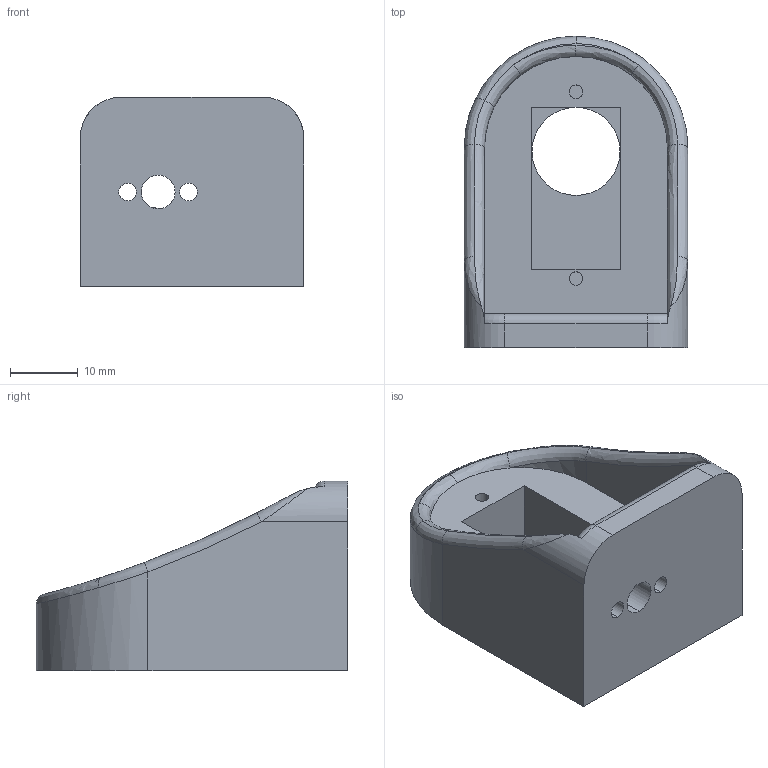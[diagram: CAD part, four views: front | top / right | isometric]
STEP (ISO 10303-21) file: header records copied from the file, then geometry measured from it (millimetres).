
FILE_DESCRIPTION (( 'STEP AP203' ), '1' );
FILE_NAME ('Arm 03.STEP', '2021-09-16T07:10:01', ( '' ), ( '' ), 'SwSTEP 2.0', 'SolidWorks 2019', '' );
FILE_SCHEMA (( 'CONFIG_CONTROL_DESIGN' ));
Length unit declared in the file: millimetre
Products named in the file (1): Arm 03
Bounding box: 33 x 46 x 28 mm (x, y, z)
Volume: 16332.6 mm3; surface area: 7329.5 mm2
Topology: 1 solids, 1 shells, 54 faces, 129 edges, 79 vertices
Faces by surface type: cylinder 19, plane 18, bspline 15, torus 2
Entity records: 2280 total; most frequent: CARTESIAN_POINT 1011, ORIENTED_EDGE 258, DIRECTION 231, EDGE_CURVE 129, AXIS2_PLACEMENT_3D 91, VERTEX_POINT 79, EDGE_LOOP 64, FACE_OUTER_BOUND 54
